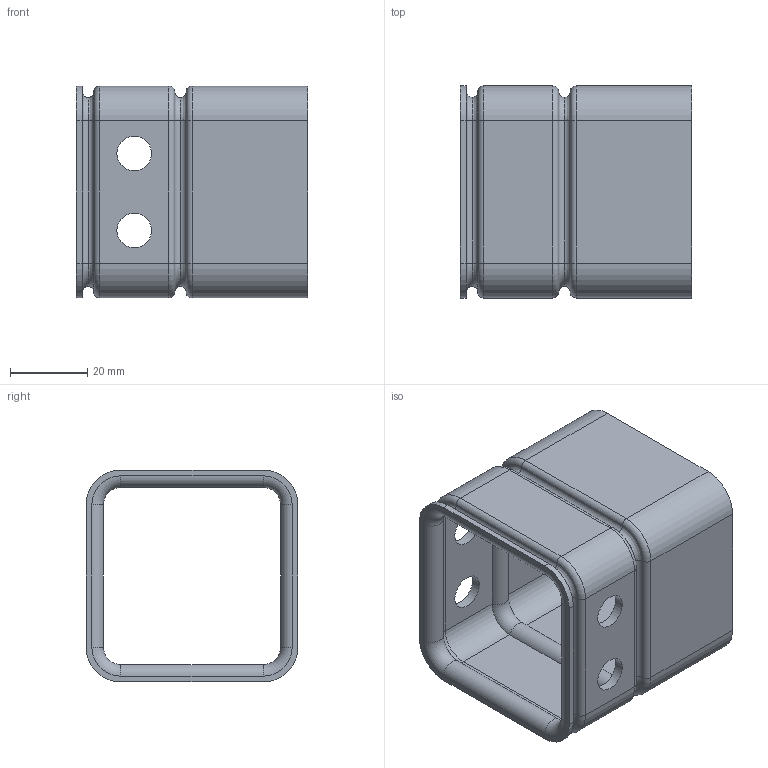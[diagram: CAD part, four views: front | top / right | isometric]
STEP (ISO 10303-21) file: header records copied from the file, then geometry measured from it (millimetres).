
FILE_DESCRIPTION((''),'2;1');
FILE_NAME('C:\Uebbing\PARAMETERKETTEN\PFR\PFR 221\PFR 221 Normalanschluss.stp','2012-03-30T08:17:14',('Uebbing'),(''),'Autodesk Inventor 10','Autodesk Inventor 10','');
FILE_SCHEMA(('AUTOMOTIVE_DESIGN { 1 0 10303 214 1 1 1 1 }'));
Length unit declared in the file: millimetre
Products named in the file (1): PFR 221 Normalanschluss
Bounding box: 60 x 55 x 55 mm (x, y, z)
Volume: 28485 mm3; surface area: 26177.7 mm2
Topology: 1 solids, 1 shells, 153 faces, 340 edges, 192 vertices
Faces by surface type: cylinder 72, plane 41, torus 20, bspline 20
Full cylindrical faces by diameter (mm): 9 x4
Entity records: 5005 total; most frequent: CARTESIAN_POINT 1562, DIRECTION 784, ORIENTED_EDGE 672, EDGE_CURVE 336, AXIS2_PLACEMENT_3D 314, VERTEX_POINT 192, CIRCLE 180, EDGE_LOOP 170
